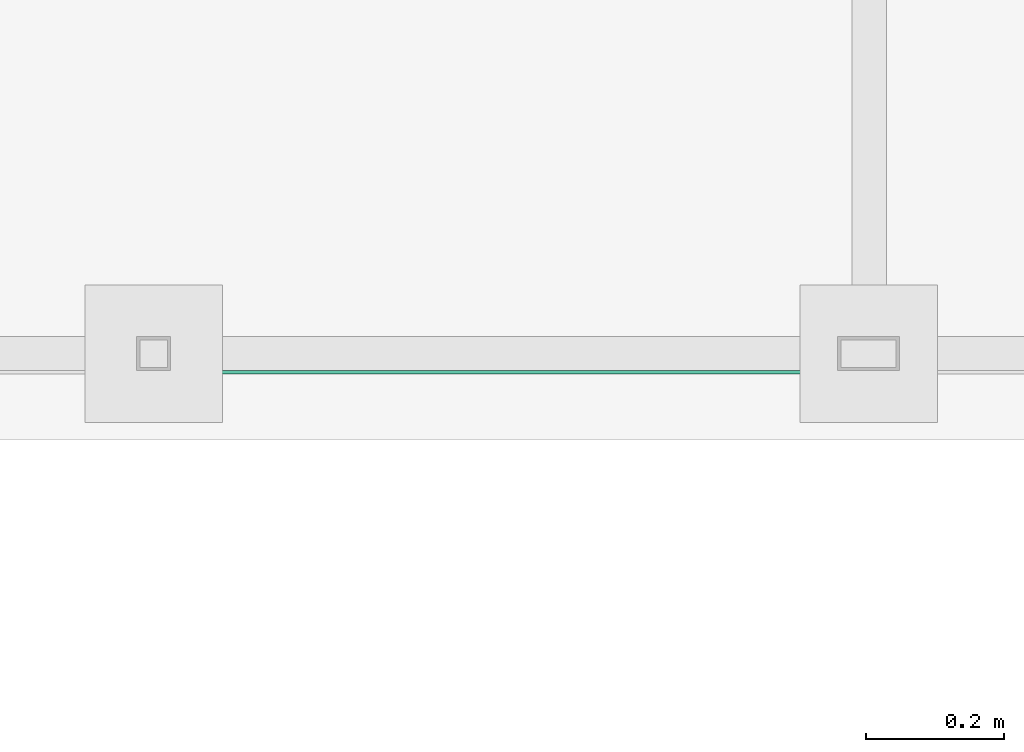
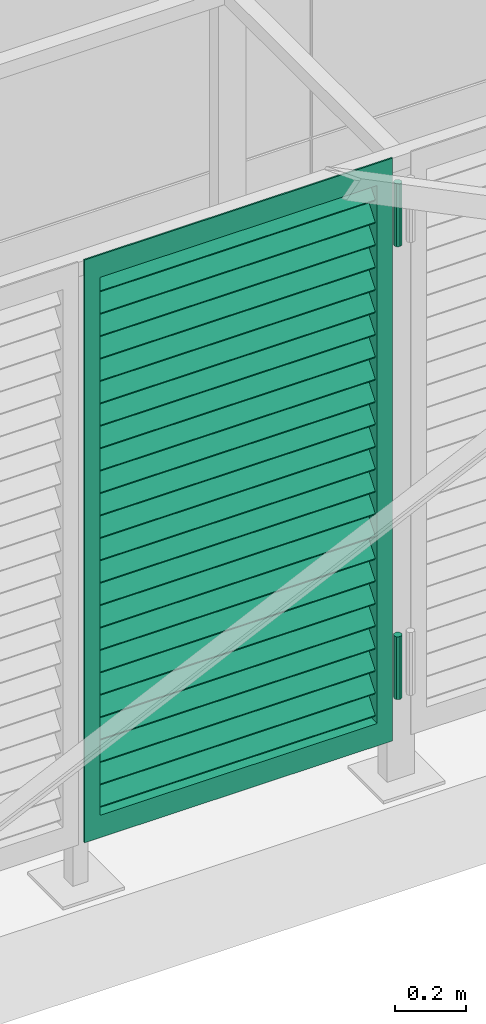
# One storey, part 175 of 418: 1 distribution flow element.
"""IFC2X3 building model written with IfcOpenShell, lengths in millimetres."""

from ifc_helpers import new_model, entity, si_unit, converted_unit, derived_unit, money_unit, direction, frame, origin_with_axes, place, context, subcontext, project, spatial, faceted_brep, source, transform, mapped, material, material_list, type_object, element, save


model = new_model("IFC2X3")

# Units and contexts
model_context = context("Model", 3, precision=0.01, world=origin_with_axes(), true_north=direction((0.0, 1.0)))
body_context = subcontext(model_context, "Body", "Model", "MODEL_VIEW")
ifc_project = project(units=[si_unit("LENGTHUNIT", "METRE", prefix="MILLI"), si_unit("AREAUNIT", "SQUARE_METRE"), si_unit("VOLUMEUNIT", "CUBIC_METRE"), converted_unit("PLANEANGLEUNIT", "DEGREE", entity("IfcPlaneAngleMeasure", 0.0174532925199), si_unit("PLANEANGLEUNIT", "RADIAN"), dimensions=[0, 0, 0, 0, 0, 0, 0]), si_unit("SOLIDANGLEUNIT", "STERADIAN"), money_unit("EUR"), converted_unit("TIMEUNIT", "Year", entity("IfcTimeMeasure", 31556926.0), si_unit("TIMEUNIT", "SECOND"), dimensions=[0, 0, 1, 0, 0, 0, 0]), si_unit("MASSUNIT", "GRAM", prefix="KILO"), si_unit("THERMODYNAMICTEMPERATUREUNIT", "DEGREE_CELSIUS"), si_unit("LUMINOUSINTENSITYUNIT", "LUMEN"), si_unit("ENERGYUNIT", "JOULE", prefix="MEGA"), derived_unit("THERMALCONDUCTANCEUNIT", [(si_unit("POWERUNIT", "WATT"), 1), (si_unit("LENGTHUNIT", "METRE"), -1), (si_unit("THERMODYNAMICTEMPERATUREUNIT", "KELVIN"), -1)]), derived_unit("SPECIFICHEATCAPACITYUNIT", [(si_unit("ENERGYUNIT", "JOULE"), 1), (si_unit("MASSUNIT", "GRAM", prefix="KILO"), -1), (si_unit("THERMODYNAMICTEMPERATUREUNIT", "KELVIN"), -1)]), derived_unit("MASSDENSITYUNIT", [(si_unit("MASSUNIT", "GRAM", prefix="KILO"), 1), (si_unit("VOLUMEUNIT", "CUBIC_METRE"), -1)])], contexts=[model_context])

# Site, building, storey
site_placement = place(None, origin_with_axes())
site = spatial("IfcSite", under=ifc_project, at=site_placement, Name="Paldiski mnt 245/1, Tallinn, Harjumaa", CompositionType="COMPLEX")
building_placement = place(site_placement, origin_with_axes())
building = spatial("IfcBuilding", under=site, at=building_placement, Name="RKAS Hoone üldnimetus (kasutust iseloomustav) -> IFC Project Manager -> SOLIBRI", CompositionType="ELEMENT")
storey_placement = place(building_placement, origin_with_axes())
storey = spatial("IfcBuildingStorey", under=building, at=storey_placement, Name="Esimene korrus", CompositionType="ELEMENT", Elevation=0.0)

# Distribution flow element
ifc_material_1 = material(Name="Teras")
ifc_material_2 = material(Name="ET-05_Teras")
ifc_material_list = material_list([ifc_material_1, ifc_material_2])
valve_type = type_object("IfcValveType", Name="Rest_1", PredefinedType="USERDEFINED")
shared_shape = source(origin_with_axes(), body_context, "Body", "Brep", [
    faceted_brep([(-72.0, 25.0, 2000.0), (-72.0, 30.0, 2000.0), (-72.0, 30.0, 1923.07692308), (-72.0, 30.0, 76.9230769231), (-72.0, 30.0, 0.0), (-72.0, 25.0, 0.0), (-72.0, 25.0, 76.9230769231), (-72.0, 25.0, 1923.07692308), (-22.0, 25.0, 2000.0), (-22.0, 30.0, 2000.0), (-22.0, 30.0, 0.0), (-22.0, 25.0, 0.0)], [[[0, 1, 2, 3, 4, 5, 6, 7]], [[8, 9, 1, 0]], [[1, 9, 10, 4, 3, 2]], [[10, 11, 5, 4]], [[5, 11, 8, 0, 7, 6]], [[8, 11, 10, 9]]]),
    faceted_brep([(-972.0, 30.0, 0.0), (-72.0, 30.0, 0.0), (-72.0, 25.0, 0.0), (-972.0, 25.0, 0.0), (-972.0, 30.0, 76.9230769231), (-72.0, 30.0, 76.9230769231), (-72.0, 25.0, 76.9230769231), (-972.0, 25.0, 76.9230769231)], [[[0, 1, 2, 3]], [[4, 5, 1, 0]], [[1, 5, 6, 2]], [[3, 2, 6, 7]], [[0, 3, 7, 4]], [[7, 6, 5, 4]]]),
    faceted_brep([(-972.0, 30.0, 0.0), (-1022.0, 30.0, 0.0), (-1022.0, 30.0, 2000.0), (-972.0, 30.0, 2000.0), (-972.0, 30.0, 1923.07692308), (-972.0, 30.0, 76.9230769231), (-1022.0, 25.0, 0.0), (-972.0, 25.0, 0.0), (-1022.0, 25.0, 2000.0), (-972.0, 25.0, 2000.0), (-972.0, 25.0, 1923.07692308), (-972.0, 25.0, 76.9230769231)], [[[0, 1, 2, 3, 4, 5]], [[6, 1, 0, 7]], [[8, 2, 1, 6]], [[2, 8, 9, 3]], [[7, 0, 5, 4, 3, 9, 10, 11]], [[9, 8, 6, 7, 11, 10]]]),
    faceted_brep([(-977.0, 30.0, 76.9230769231), (-977.0, 80.0, 76.9230769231), (-972.0, 80.0, 76.9230769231), (-972.0, 30.0, 76.9230769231), (-977.0, 30.0, 1923.07692308), (-977.0, 80.0, 1923.07692308), (-972.0, 80.0, 1923.07692308), (-972.0, 30.0, 1923.07692308)], [[[0, 1, 2, 3]], [[4, 5, 1, 0]], [[5, 6, 2, 1]], [[3, 2, 6, 7]], [[4, 0, 3, 7]], [[7, 6, 5, 4]]]),
    faceted_brep([(-67.0, 30.0, 1923.07692308), (-67.0, 80.0, 1923.07692308), (-72.0, 80.0, 1923.07692308), (-72.0, 30.0, 1923.07692308), (-67.0, 30.0, 76.9230769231), (-67.0, 80.0, 76.9230769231), (-72.0, 80.0, 76.9230769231), (-72.0, 30.0, 76.9230769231)], [[[0, 1, 2, 3]], [[4, 5, 1, 0]], [[5, 6, 2, 1]], [[3, 2, 6, 7]], [[4, 0, 3, 7]], [[7, 6, 5, 4]]]),
    faceted_brep([(-972.0, 30.0, 1923.07692308), (-72.0, 30.0, 1923.07692308), (-72.0, 25.0, 1923.07692308), (-972.0, 25.0, 1923.07692308), (-972.0, 30.0, 2000.0), (-72.0, 30.0, 2000.0), (-72.0, 25.0, 2000.0), (-972.0, 25.0, 2000.0)], [[[0, 1, 2, 3]], [[4, 5, 1, 0]], [[1, 5, 6, 2]], [[3, 2, 6, 7]], [[0, 3, 7, 4]], [[7, 6, 5, 4]]]),
    faceted_brep([(-67.0, 30.0, 69.2307692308), (-67.0, 30.0, 76.9230769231), (-977.0, 30.0, 76.9230769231), (-977.0, 30.0, 69.2307692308), (-67.0, 80.0, 69.2307692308), (-67.0, 80.0, 76.9230769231), (-977.0, 80.0, 76.9230769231), (-977.0, 80.0, 69.2307692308)], [[[0, 1, 2, 3]], [[4, 5, 1, 0]], [[1, 5, 6, 2]], [[3, 2, 6, 7]], [[0, 3, 7, 4]], [[7, 6, 5, 4]]]),
    faceted_brep([(-67.0, 30.0, 1923.07692308), (-67.0, 30.0, 1930.76923077), (-977.0, 30.0, 1930.76923077), (-977.0, 30.0, 1923.07692308), (-67.0, 80.0, 1923.07692308), (-67.0, 80.0, 1930.76923077), (-977.0, 80.0, 1930.76923077), (-977.0, 80.0, 1923.07692308)], [[[0, 1, 2, 3]], [[4, 5, 1, 0]], [[1, 5, 6, 2]], [[3, 2, 6, 7]], [[0, 3, 7, 4]], [[7, 6, 5, 4]]]),
    faceted_brep([(-972.0, 77.3650491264, 141.906873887), (-72.0, 77.3650491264, 141.906873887), (-72.0, 39.0628269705, 92.4616731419), (-972.0, 39.0628269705, 92.4616731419), (-972.0, 74.151111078, 147.799523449), (-72.0, 74.151111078, 147.799523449), (-72.0, 35.848888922, 98.3543227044), (-972.0, 35.848888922, 98.3543227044)], [[[0, 1, 2, 3]], [[4, 5, 1, 0]], [[1, 5, 6, 2]], [[3, 2, 6, 7]], [[0, 3, 7, 4]], [[7, 6, 5, 4]]]),
    faceted_brep([(-972.0, 77.3650491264, 218.82995081), (-72.0, 77.3650491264, 218.82995081), (-72.0, 39.0628269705, 169.384750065), (-972.0, 39.0628269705, 169.384750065), (-972.0, 74.151111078, 224.722600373), (-72.0, 74.151111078, 224.722600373), (-72.0, 35.848888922, 175.277399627), (-972.0, 35.848888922, 175.277399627)], [[[0, 1, 2, 3]], [[4, 5, 1, 0]], [[1, 5, 6, 2]], [[3, 2, 6, 7]], [[0, 3, 7, 4]], [[7, 6, 5, 4]]]),
    faceted_brep([(-972.0, 77.3650491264, 295.753027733), (-72.0, 77.3650491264, 295.753027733), (-72.0, 39.0628269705, 246.307826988), (-972.0, 39.0628269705, 246.307826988), (-972.0, 74.151111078, 301.645677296), (-72.0, 74.151111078, 301.645677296), (-72.0, 35.848888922, 252.200476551), (-972.0, 35.848888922, 252.200476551)], [[[0, 1, 2, 3]], [[4, 5, 1, 0]], [[1, 5, 6, 2]], [[3, 2, 6, 7]], [[0, 3, 7, 4]], [[7, 6, 5, 4]]]),
    faceted_brep([(-972.0, 77.3650491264, 372.676104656), (-72.0, 77.3650491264, 372.676104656), (-72.0, 39.0628269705, 323.230903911), (-972.0, 39.0628269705, 323.230903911), (-972.0, 74.151111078, 378.568754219), (-72.0, 74.151111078, 378.568754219), (-72.0, 35.848888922, 329.123553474), (-972.0, 35.848888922, 329.123553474)], [[[0, 1, 2, 3]], [[4, 5, 1, 0]], [[1, 5, 6, 2]], [[3, 2, 6, 7]], [[0, 3, 7, 4]], [[7, 6, 5, 4]]]),
    faceted_brep([(-972.0, 77.3650491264, 449.599181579), (-72.0, 77.3650491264, 449.599181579), (-72.0, 39.0628269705, 400.153980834), (-972.0, 39.0628269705, 400.153980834), (-972.0, 74.151111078, 455.491831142), (-72.0, 74.151111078, 455.491831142), (-72.0, 35.848888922, 406.046630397), (-972.0, 35.848888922, 406.046630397)], [[[0, 1, 2, 3]], [[4, 5, 1, 0]], [[1, 5, 6, 2]], [[3, 2, 6, 7]], [[0, 3, 7, 4]], [[7, 6, 5, 4]]]),
    faceted_brep([(-972.0, 77.3650491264, 526.522258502), (-72.0, 77.3650491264, 526.522258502), (-72.0, 39.0628269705, 477.077057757), (-972.0, 39.0628269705, 477.077057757), (-972.0, 74.151111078, 532.414908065), (-72.0, 74.151111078, 532.414908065), (-72.0, 35.848888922, 482.96970732), (-972.0, 35.848888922, 482.96970732)], [[[0, 1, 2, 3]], [[4, 5, 1, 0]], [[1, 5, 6, 2]], [[3, 2, 6, 7]], [[0, 3, 7, 4]], [[7, 6, 5, 4]]]),
    faceted_brep([(-972.0, 77.3650491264, 603.445335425), (-72.0, 77.3650491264, 603.445335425), (-72.0, 39.0628269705, 554.00013468), (-972.0, 39.0628269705, 554.00013468), (-972.0, 74.151111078, 609.337984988), (-72.0, 74.151111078, 609.337984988), (-72.0, 35.848888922, 559.892784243), (-972.0, 35.848888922, 559.892784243)], [[[0, 1, 2, 3]], [[4, 5, 1, 0]], [[1, 5, 6, 2]], [[3, 2, 6, 7]], [[0, 3, 7, 4]], [[7, 6, 5, 4]]]),
    faceted_brep([(-972.0, 77.3650491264, 680.368412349), (-72.0, 77.3650491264, 680.368412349), (-72.0, 39.0628269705, 630.923211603), (-972.0, 39.0628269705, 630.923211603), (-972.0, 74.151111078, 686.261061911), (-72.0, 74.151111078, 686.261061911), (-72.0, 35.848888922, 636.815861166), (-972.0, 35.848888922, 636.815861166)], [[[0, 1, 2, 3]], [[4, 5, 1, 0]], [[1, 5, 6, 2]], [[3, 2, 6, 7]], [[0, 3, 7, 4]], [[7, 6, 5, 4]]]),
    faceted_brep([(-972.0, 77.3650491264, 757.291489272), (-72.0, 77.3650491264, 757.291489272), (-72.0, 39.0628269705, 707.846288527), (-972.0, 39.0628269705, 707.846288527), (-972.0, 74.151111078, 763.184138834), (-72.0, 74.151111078, 763.184138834), (-72.0, 35.848888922, 713.738938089), (-972.0, 35.848888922, 713.738938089)], [[[0, 1, 2, 3]], [[4, 5, 1, 0]], [[1, 5, 6, 2]], [[3, 2, 6, 7]], [[0, 3, 7, 4]], [[7, 6, 5, 4]]]),
    faceted_brep([(-972.0, 77.3650491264, 834.214566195), (-72.0, 77.3650491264, 834.214566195), (-72.0, 39.0628269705, 784.76936545), (-972.0, 39.0628269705, 784.76936545), (-972.0, 74.151111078, 840.107215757), (-72.0, 74.151111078, 840.107215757), (-72.0, 35.848888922, 790.662015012), (-972.0, 35.848888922, 790.662015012)], [[[0, 1, 2, 3]], [[4, 5, 1, 0]], [[1, 5, 6, 2]], [[3, 2, 6, 7]], [[0, 3, 7, 4]], [[7, 6, 5, 4]]]),
    faceted_brep([(-972.0, 77.3650491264, 911.137643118), (-72.0, 77.3650491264, 911.137643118), (-72.0, 39.0628269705, 861.692442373), (-972.0, 39.0628269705, 861.692442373), (-972.0, 74.151111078, 917.03029268), (-72.0, 74.151111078, 917.03029268), (-72.0, 35.848888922, 867.585091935), (-972.0, 35.848888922, 867.585091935)], [[[0, 1, 2, 3]], [[4, 5, 1, 0]], [[1, 5, 6, 2]], [[3, 2, 6, 7]], [[0, 3, 7, 4]], [[7, 6, 5, 4]]]),
    faceted_brep([(-972.0, 77.3650491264, 988.060720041), (-72.0, 77.3650491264, 988.060720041), (-72.0, 39.0628269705, 938.615519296), (-972.0, 39.0628269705, 938.615519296), (-972.0, 74.151111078, 993.953369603), (-72.0, 74.151111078, 993.953369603), (-72.0, 35.848888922, 944.508168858), (-972.0, 35.848888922, 944.508168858)], [[[0, 1, 2, 3]], [[4, 5, 1, 0]], [[1, 5, 6, 2]], [[3, 2, 6, 7]], [[0, 3, 7, 4]], [[7, 6, 5, 4]]]),
    faceted_brep([(-972.0, 77.3650491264, 1064.98379696), (-72.0, 77.3650491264, 1064.98379696), (-72.0, 39.0628269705, 1015.53859622), (-972.0, 39.0628269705, 1015.53859622), (-972.0, 74.151111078, 1070.87644653), (-72.0, 74.151111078, 1070.87644653), (-72.0, 35.848888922, 1021.43124578), (-972.0, 35.848888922, 1021.43124578)], [[[0, 1, 2, 3]], [[4, 5, 1, 0]], [[1, 5, 6, 2]], [[3, 2, 6, 7]], [[0, 3, 7, 4]], [[7, 6, 5, 4]]]),
    faceted_brep([(-972.0, 77.3650491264, 1141.90687389), (-72.0, 77.3650491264, 1141.90687389), (-72.0, 39.0628269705, 1092.46167314), (-972.0, 39.0628269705, 1092.46167314), (-972.0, 74.151111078, 1147.79952345), (-72.0, 74.151111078, 1147.79952345), (-72.0, 35.848888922, 1098.3543227), (-972.0, 35.848888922, 1098.3543227)], [[[0, 1, 2, 3]], [[4, 5, 1, 0]], [[1, 5, 6, 2]], [[3, 2, 6, 7]], [[0, 3, 7, 4]], [[7, 6, 5, 4]]]),
    faceted_brep([(-972.0, 77.3650491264, 1218.82995081), (-72.0, 77.3650491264, 1218.82995081), (-72.0, 39.0628269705, 1169.38475006), (-972.0, 39.0628269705, 1169.38475006), (-972.0, 74.151111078, 1224.72260037), (-72.0, 74.151111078, 1224.72260037), (-72.0, 35.848888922, 1175.27739963), (-972.0, 35.848888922, 1175.27739963)], [[[0, 1, 2, 3]], [[4, 5, 1, 0]], [[1, 5, 6, 2]], [[3, 2, 6, 7]], [[0, 3, 7, 4]], [[7, 6, 5, 4]]]),
    faceted_brep([(-972.0, 77.3650491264, 1295.75302773), (-72.0, 77.3650491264, 1295.75302773), (-72.0, 39.0628269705, 1246.30782699), (-972.0, 39.0628269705, 1246.30782699), (-972.0, 74.151111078, 1301.6456773), (-72.0, 74.151111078, 1301.6456773), (-72.0, 35.848888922, 1252.20047655), (-972.0, 35.848888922, 1252.20047655)], [[[0, 1, 2, 3]], [[4, 5, 1, 0]], [[1, 5, 6, 2]], [[3, 2, 6, 7]], [[0, 3, 7, 4]], [[7, 6, 5, 4]]]),
    faceted_brep([(-972.0, 77.3650491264, 1372.67610466), (-72.0, 77.3650491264, 1372.67610466), (-72.0, 39.0628269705, 1323.23090391), (-972.0, 39.0628269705, 1323.23090391), (-972.0, 74.151111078, 1378.56875422), (-72.0, 74.151111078, 1378.56875422), (-72.0, 35.848888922, 1329.12355347), (-972.0, 35.848888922, 1329.12355347)], [[[0, 1, 2, 3]], [[4, 5, 1, 0]], [[1, 5, 6, 2]], [[3, 2, 6, 7]], [[0, 3, 7, 4]], [[7, 6, 5, 4]]]),
    faceted_brep([(-972.0, 77.3650491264, 1449.59918158), (-72.0, 77.3650491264, 1449.59918158), (-72.0, 39.0628269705, 1400.15398083), (-972.0, 39.0628269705, 1400.15398083), (-972.0, 74.151111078, 1455.49183114), (-72.0, 74.151111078, 1455.49183114), (-72.0, 35.848888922, 1406.0466304), (-972.0, 35.848888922, 1406.0466304)], [[[0, 1, 2, 3]], [[4, 5, 1, 0]], [[1, 5, 6, 2]], [[3, 2, 6, 7]], [[0, 3, 7, 4]], [[7, 6, 5, 4]]]),
    faceted_brep([(-972.0, 77.3650491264, 1526.5222585), (-72.0, 77.3650491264, 1526.5222585), (-72.0, 39.0628269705, 1477.07705776), (-972.0, 39.0628269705, 1477.07705776), (-972.0, 74.151111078, 1532.41490806), (-72.0, 74.151111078, 1532.41490806), (-72.0, 35.848888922, 1482.96970732), (-972.0, 35.848888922, 1482.96970732)], [[[0, 1, 2, 3]], [[4, 5, 1, 0]], [[1, 5, 6, 2]], [[3, 2, 6, 7]], [[0, 3, 7, 4]], [[7, 6, 5, 4]]]),
    faceted_brep([(-972.0, 77.3650491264, 1603.44533543), (-72.0, 77.3650491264, 1603.44533543), (-72.0, 39.0628269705, 1554.00013468), (-972.0, 39.0628269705, 1554.00013468), (-972.0, 74.151111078, 1609.33798499), (-72.0, 74.151111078, 1609.33798499), (-72.0, 35.848888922, 1559.89278424), (-972.0, 35.848888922, 1559.89278424)], [[[0, 1, 2, 3]], [[4, 5, 1, 0]], [[1, 5, 6, 2]], [[3, 2, 6, 7]], [[0, 3, 7, 4]], [[7, 6, 5, 4]]]),
    faceted_brep([(-972.0, 77.3650491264, 1680.36841235), (-72.0, 77.3650491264, 1680.36841235), (-72.0, 39.0628269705, 1630.9232116), (-972.0, 39.0628269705, 1630.9232116), (-972.0, 74.151111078, 1686.26106191), (-72.0, 74.151111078, 1686.26106191), (-72.0, 35.848888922, 1636.81586117), (-972.0, 35.848888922, 1636.81586117)], [[[0, 1, 2, 3]], [[4, 5, 1, 0]], [[1, 5, 6, 2]], [[3, 2, 6, 7]], [[0, 3, 7, 4]], [[7, 6, 5, 4]]]),
    faceted_brep([(-972.0, 77.3650491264, 1757.29148927), (-72.0, 77.3650491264, 1757.29148927), (-72.0, 39.0628269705, 1707.84628853), (-972.0, 39.0628269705, 1707.84628853), (-972.0, 74.151111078, 1763.18413883), (-72.0, 74.151111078, 1763.18413883), (-72.0, 35.848888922, 1713.73893809), (-972.0, 35.848888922, 1713.73893809)], [[[0, 1, 2, 3]], [[4, 5, 1, 0]], [[1, 5, 6, 2]], [[3, 2, 6, 7]], [[0, 3, 7, 4]], [[7, 6, 5, 4]]]),
    faceted_brep([(-972.0, 77.3650491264, 1834.21456619), (-72.0, 77.3650491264, 1834.21456619), (-72.0, 39.0628269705, 1784.76936545), (-972.0, 39.0628269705, 1784.76936545), (-972.0, 74.151111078, 1840.10721576), (-72.0, 74.151111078, 1840.10721576), (-72.0, 35.848888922, 1790.66201501), (-972.0, 35.848888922, 1790.66201501)], [[[0, 1, 2, 3]], [[4, 5, 1, 0]], [[1, 5, 6, 2]], [[3, 2, 6, 7]], [[0, 3, 7, 4]], [[7, 6, 5, 4]]]),
    faceted_brep([(-972.0, 77.3650491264, 1911.13764312), (-72.0, 77.3650491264, 1911.13764312), (-72.0, 39.0628269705, 1861.69244237), (-972.0, 39.0628269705, 1861.69244237), (-972.0, 74.151111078, 1917.03029268), (-72.0, 74.151111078, 1917.03029268), (-72.0, 35.848888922, 1867.58509194), (-972.0, 35.848888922, 1867.58509194)], [[[0, 1, 2, 3]], [[4, 5, 1, 0]], [[1, 5, 6, 2]], [[3, 2, 6, 7]], [[0, 3, 7, 4]], [[7, 6, 5, 4]]]),
    faceted_brep([(0.0, 12.5, 153.846153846), (0.0, 12.5, 369.230769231), (-3.66116523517, 3.66116523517, 369.230769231), (-3.66116523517, 3.66116523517, 153.846153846), (-3.66116523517, 21.3388347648, 153.846153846), (-3.66116523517, 21.3388347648, 369.230769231), (-12.5, 25.0, 369.230769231), (-21.3388347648, 21.3388347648, 369.230769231), (-25.0, 12.5, 369.230769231), (-21.3388347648, 3.66116523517, 369.230769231), (-12.5, 0.0, 369.230769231), (-12.5, 0.0, 153.846153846), (-21.3388347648, 3.66116523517, 153.846153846), (-25.0, 12.5, 153.846153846), (-21.3388347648, 21.3388347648, 153.846153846), (-12.5, 25.0, 153.846153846)], [[[0, 1, 2, 3]], [[4, 5, 1, 0]], [[1, 5, 6, 7, 8, 9, 10, 2]], [[3, 2, 10, 11]], [[0, 3, 11, 12, 13, 14, 15, 4]], [[15, 6, 5, 4]], [[14, 7, 6, 15]], [[13, 8, 7, 14]], [[12, 9, 8, 13]], [[11, 10, 9, 12]]]),
    faceted_brep([(0.0, 12.5, 1707.69230769), (0.0, 12.5, 1923.07692308), (-3.66116523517, 3.66116523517, 1923.07692308), (-3.66116523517, 3.66116523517, 1707.69230769), (-3.66116523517, 21.3388347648, 1707.69230769), (-3.66116523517, 21.3388347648, 1923.07692308), (-12.5, 25.0, 1923.07692308), (-21.3388347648, 21.3388347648, 1923.07692308), (-25.0, 12.5, 1923.07692308), (-21.3388347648, 3.66116523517, 1923.07692308), (-12.5, 0.0, 1923.07692308), (-12.5, 0.0, 1707.69230769), (-21.3388347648, 3.66116523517, 1707.69230769), (-25.0, 12.5, 1707.69230769), (-21.3388347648, 21.3388347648, 1707.69230769), (-12.5, 25.0, 1707.69230769)], [[[0, 1, 2, 3]], [[4, 5, 1, 0]], [[1, 5, 6, 7, 8, 9, 10, 2]], [[3, 2, 10, 11]], [[0, 3, 11, 12, 13, 14, 15, 4]], [[15, 6, 5, 4]], [[14, 7, 6, 15]], [[13, 8, 7, 14]], [[12, 9, 8, 13]], [[11, 10, 9, 12]]]),
])
distribution_flow_element_placement = place(storey_placement, frame((-53737.5626817, -1585.71022117, 0.0), z_axis=(0.0, 0.0, 1.0), x_axis=(1.0, 0.0, 0.0)))
element("IfcDistributionFlowElement", 1, at=distribution_flow_element_placement, inside=storey, type_object=valve_type, material=ifc_material_list, Name="Trapp", ObjectType="Distribution Flow Element", context=body_context, shape_type="MappedRepresentation", body=[
    mapped(shared_shape, transform((0.0, 0.0, 0.0))),
])

save(model, "model.ifc")
